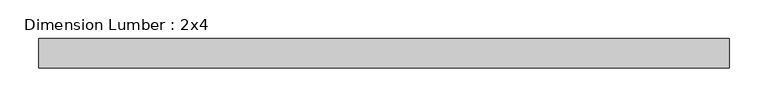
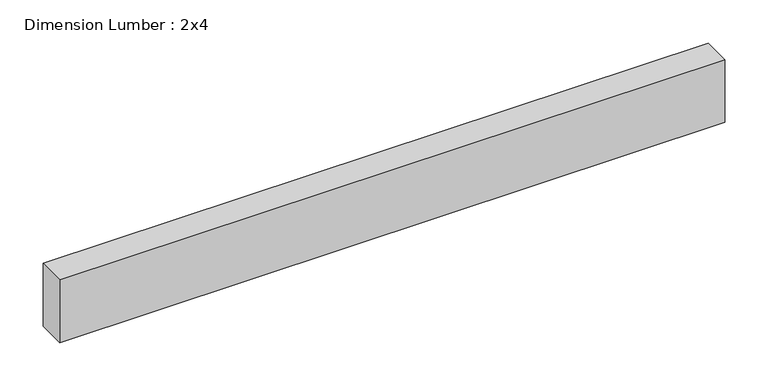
"""IFC4 building model written with IfcOpenShell, lengths in millimetres: beam geometry, Dimension Lumber : 2x4."""

from ifc_helpers import new_model, si_unit, frame, origin, place, context, project, spatial, polyline, outline, extrude, source, transform, mapped, element, save


def dimension_lumber_2x4_e131ae00(model_context):
    return source(origin(), model_context, "Body", "SweptSolid", [
        extrude(outline(polyline([(425.45, 19.05), (425.45, -19.05), (-463.55, -19.05), (-463.55, 19.05), (425.45, 19.05)])), frame((0.0, 0.0, -44.45), z_axis=(0.0, 0.0, 1.0), x_axis=(1.0, 0.0, 0.0)), (0.0, 0.0, 1.0), 88.9),
    ])


if __name__ == "__main__":
    model = new_model("IFC4")
    model_context = context("Model", 3, world=origin())
    ifc_project = project(units=[si_unit("LENGTHUNIT", "METRE", prefix="MILLI")], contexts=[model_context])
    site = spatial("IfcSite", under=ifc_project)
    building = spatial("IfcBuilding", under=site)
    placement = place(None, origin())
    dimension_lumber_2x4_shape = dimension_lumber_2x4_e131ae00(model_context)
    element("IfcBeam", 1, ObjectType="Dimension Lumber : 2x4", at=placement, inside=building, context=model_context, shape_type="MappedRepresentation", body=[
        mapped(dimension_lumber_2x4_shape, transform((0.0, 0.0, 0.0), x_axis=(1.0, 0.0, 0.0), y_axis=(0.0, 1.0, 0.0), z_axis=(0.0, 0.0, 1.0))),
    ])
    save(model, "model.ifc")
